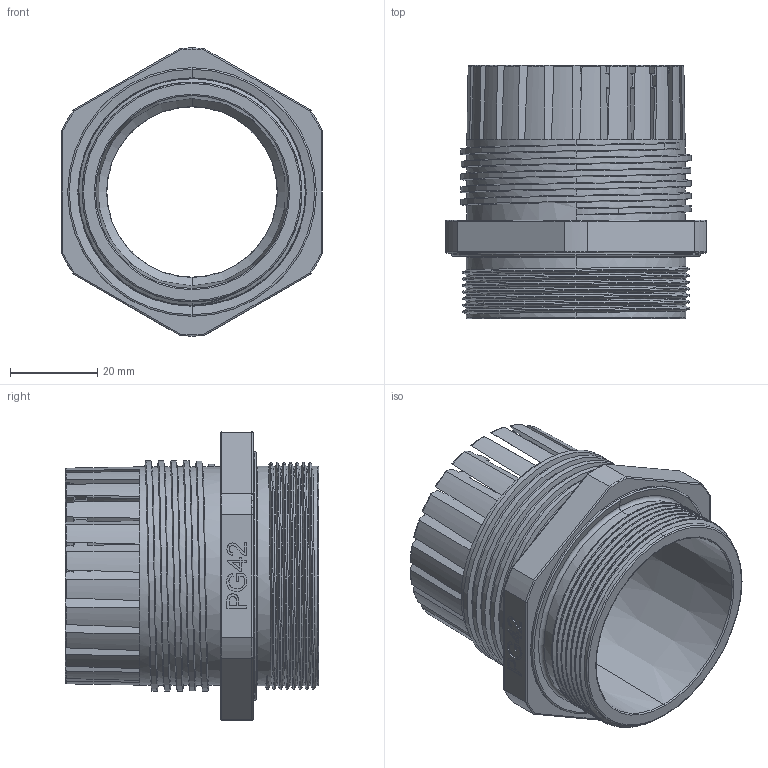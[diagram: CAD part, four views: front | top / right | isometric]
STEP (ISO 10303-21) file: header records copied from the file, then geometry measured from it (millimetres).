
FILE_DESCRIPTION (( 'STEP AP214' ), '1' );
FILE_NAME ('plc-pg-42-00.00.001 昢膼瘔 (PG42) #base (PG42)#.STEP', '2024-04-24T10:33:51', ( '' ), ( '' ), 'SwSTEP 2.0', 'SolidWorks 2021', '' );
FILE_SCHEMA (( 'AUTOMOTIVE_DESIGN' ));
Length unit declared in the file: millimetre
Products named in the file (1): plc-pg-42-00.00.001 昢膼瘔 (PG42) #base (PG42)#
Bounding box: 59.7 x 58 x 66 mm (x, y, z)
Volume: 34800.6 mm3; surface area: 25446 mm2
Topology: 1 solids, 1 shells, 476 faces, 1284 edges, 822 vertices
Faces by surface type: plane 182, cone 111, cylinder 76, torus 71, bspline 36
Entity records: 21311 total; most frequent: CARTESIAN_POINT 9660, ORIENTED_EDGE 2568, DIRECTION 1987, EDGE_CURVE 1284, VERTEX_POINT 822, AXIS2_PLACEMENT_3D 789, EDGE_LOOP 490, ADVANCED_FACE 476
